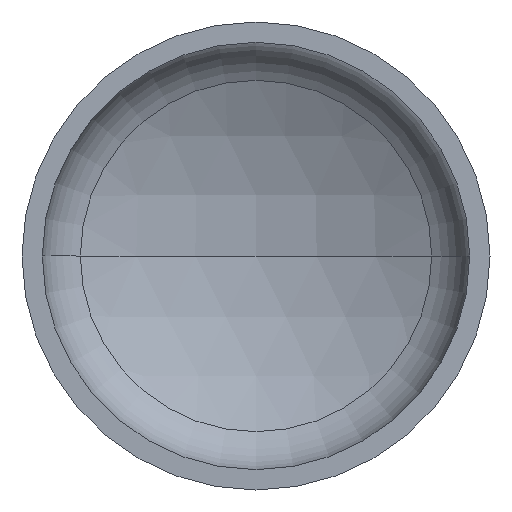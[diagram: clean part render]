
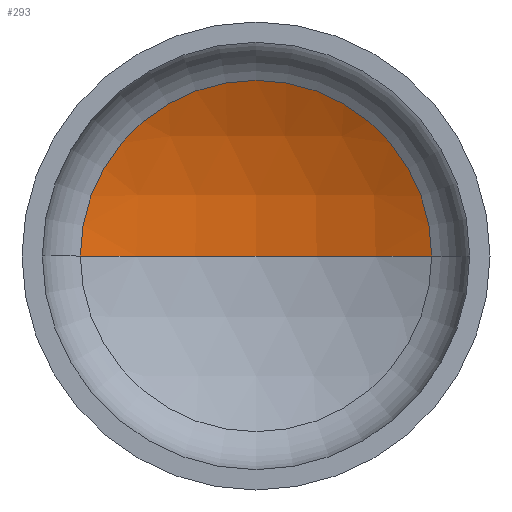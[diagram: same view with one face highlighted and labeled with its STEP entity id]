
A CAD part, front view. The second image highlights one B-rep face of the part: STEP entity #293.
In plain terms, the highlighted spherical face has radius 1360 mm.
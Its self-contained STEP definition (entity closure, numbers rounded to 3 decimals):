
#6 = AXIS2_PLACEMENT_3D ( 'NONE', #253, #294, #390 ) ;
#8 = CARTESIAN_POINT ( 'NONE',  ( 0., 508.535, 0. ) ) ;
#18 = AXIS2_PLACEMENT_3D ( 'NONE', #395, #198, #112 ) ;
#34 = AXIS2_PLACEMENT_3D ( 'NONE', #161, #83, #392 ) ;
#36 = AXIS2_PLACEMENT_3D ( 'NONE', #128, #324, #169 ) ;
#40 = EDGE_LOOP ( 'NONE', ( #75, #63, #167 ) ) ;
#63 = ORIENTED_EDGE ( 'NONE', *, *, #120, .T. ) ;
#75 = ORIENTED_EDGE ( 'NONE', *, *, #363, .F. ) ;
#83 = DIRECTION ( 'NONE',  ( 0., 0., -1. ) ) ;
#109 = EDGE_CURVE ( 'NONE', #181, #186, #148, .T. ) ;
#112 = DIRECTION ( 'NONE',  ( -1., 0., 0. ) ) ;
#120 = EDGE_CURVE ( 'NONE', #127, #181, #233, .T. ) ;
#127 = VERTEX_POINT ( 'NONE', #8 ) ;
#128 = CARTESIAN_POINT ( 'NONE',  ( 0., 349.619, 0. ) ) ;
#148 = CIRCLE ( 'NONE', #36, 637.964 ) ;
#161 = CARTESIAN_POINT ( 'NONE',  ( 0., -851.465, 0. ) ) ;
#167 = ORIENTED_EDGE ( 'NONE', *, *, #109, .T. ) ;
#169 = DIRECTION ( 'NONE',  ( 1., 0., 0. ) ) ;
#181 = VERTEX_POINT ( 'NONE', #228 ) ;
#186 = VERTEX_POINT ( 'NONE', #255 ) ;
#198 = DIRECTION ( 'NONE',  ( 0., 0., -1. ) ) ;
#208 = CIRCLE ( 'NONE', #6, 1360. ) ;
#220 = FACE_OUTER_BOUND ( 'NONE', #40, .T. ) ;
#228 = CARTESIAN_POINT ( 'NONE',  ( 637.964, 349.619, 0. ) ) ;
#233 = CIRCLE ( 'NONE', #34, 1360. ) ;
#253 = CARTESIAN_POINT ( 'NONE',  ( 0., -851.465, 0. ) ) ;
#255 = CARTESIAN_POINT ( 'NONE',  ( -637.964, 349.619, 0. ) ) ;
#293 = ADVANCED_FACE ( 'NONE', ( #220 ), #393, .F. ) ;
#294 = DIRECTION ( 'NONE',  ( 0., 0., 1. ) ) ;
#324 = DIRECTION ( 'NONE',  ( 0., -1., 0. ) ) ;
#363 = EDGE_CURVE ( 'NONE', #127, #186, #208, .T. ) ;
#390 = DIRECTION ( 'NONE',  ( 1., 0., 0. ) ) ;
#392 = DIRECTION ( 'NONE',  ( -1., 0., 0. ) ) ;
#393 = SPHERICAL_SURFACE ( 'NONE', #18, 1360. ) ;
#395 = CARTESIAN_POINT ( 'NONE',  ( 0., -851.465, 0. ) ) ;
